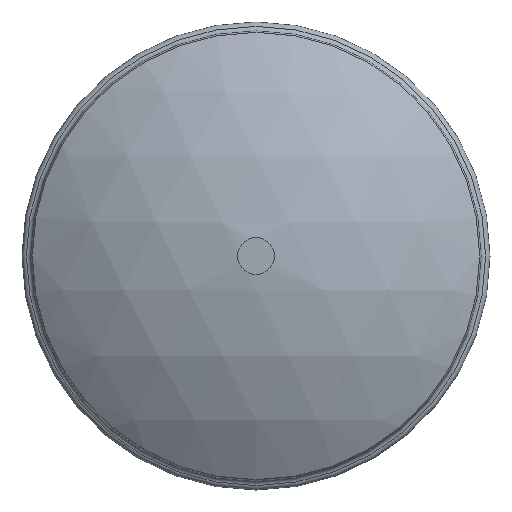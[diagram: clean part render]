
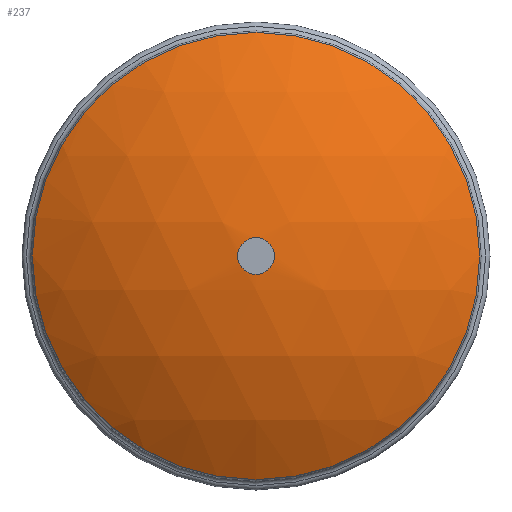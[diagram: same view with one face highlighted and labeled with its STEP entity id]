
A CAD part, left-side view. The second image highlights one B-rep face of the part: STEP entity #237.
In plain terms, the highlighted spherical face has radius 240.538 mm.
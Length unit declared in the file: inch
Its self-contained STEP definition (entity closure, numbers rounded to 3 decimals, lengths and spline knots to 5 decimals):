
#45=FACE_BOUND('',#75,.T.);
#47=SPHERICAL_SURFACE('',#284,9.47);
#62=FACE_OUTER_BOUND('',#74,.T.);
#74=EDGE_LOOP('',(#190));
#75=EDGE_LOOP('',(#191));
#90=CIRCLE('',#264,0.42);
#93=CIRCLE('',#269,5.13798);
#113=VERTEX_POINT('',#416);
#115=VERTEX_POINT('',#423);
#133=EDGE_CURVE('',#113,#113,#90,.T.);
#136=EDGE_CURVE('',#115,#115,#93,.T.);
#190=ORIENTED_EDGE('',*,*,#136,.F.);
#191=ORIENTED_EDGE('',*,*,#133,.T.);
#237=ADVANCED_FACE('',(#62,#45),#47,.T.);
#264=AXIS2_PLACEMENT_3D('',#418,#317,#318);
#269=AXIS2_PLACEMENT_3D('',#425,#327,#328);
#284=AXIS2_PLACEMENT_3D('',#450,#359,#360);
#317=DIRECTION('center_axis',(1.,0.,0.));
#318=DIRECTION('ref_axis',(0.,0.,1.));
#327=DIRECTION('center_axis',(1.,0.,0.));
#328=DIRECTION('ref_axis',(0.,0.,-1.));
#359=DIRECTION('center_axis',(0.,0.,1.));
#360=DIRECTION('ref_axis',(-1.,0.002,0.));
#416=CARTESIAN_POINT('',(0.00932,0.,-0.42));
#418=CARTESIAN_POINT('Origin',(0.00932,0.,
0.));
#423=CARTESIAN_POINT('',(1.515,-5.13798,0.));
#425=CARTESIAN_POINT('Origin',(1.515,0.,0.));
#450=CARTESIAN_POINT('Origin',(9.47,0.,0.));
